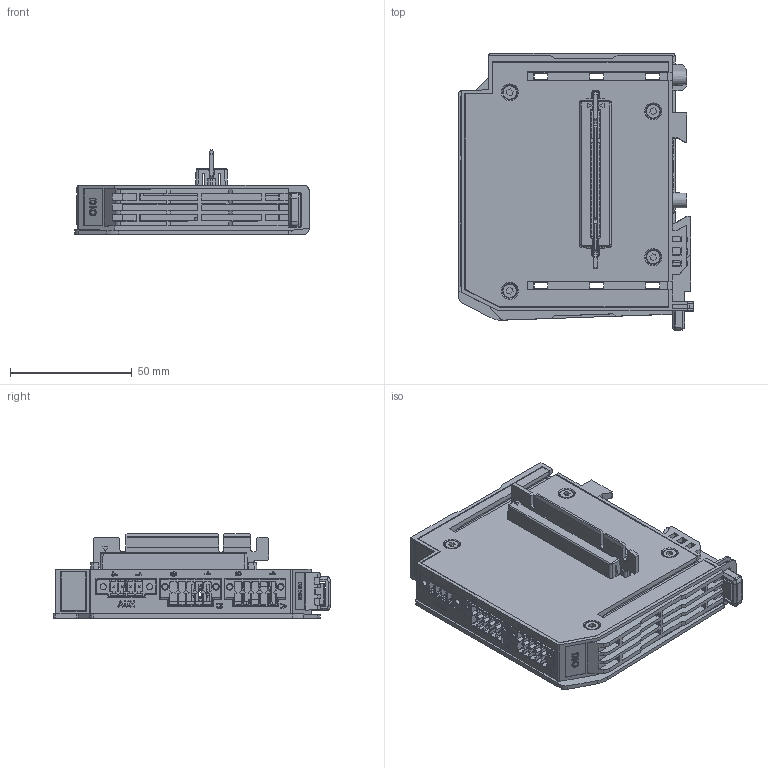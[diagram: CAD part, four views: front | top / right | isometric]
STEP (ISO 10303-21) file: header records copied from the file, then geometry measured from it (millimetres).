
FILE_DESCRIPTION (( 'STEP AP214' ), '1' );
FILE_NAME ('ADDON-layout.STEP', '2024-06-30T12:36:01', ( '' ), ( '' ), 'SwSTEP 2.0', 'SolidWorks 2015', '' );
FILE_SCHEMA (( 'AUTOMOTIVE_DESIGN' ));
Length unit declared in the file: millimetre
Products named in the file (1): ADDON-layout
Bounding box: 96.5 x 114.06 x 34.9 mm (x, y, z)
Surface area: 50745.6 mm2 (no closed solid volume)
Topology: 0 solids, 35 shells, 1532 faces, 6081 edges, 4499 vertices
Faces by surface type: plane 1233, cylinder 152, cone 78, bspline 61, torus 8
Full cylindrical faces by diameter (mm): 2.3 x4, 2.5 x4, 5.5 x4
Entity records: 82274 total; most frequent: CARTESIAN_POINT 17016, ORIENTED_EDGE 9584, DIRECTION 8932, EDGE_CURVE 6039, LINE 5088, VECTOR 5088, VERTEX_POINT 4490, AXIS2_PLACEMENT_3D 1922
